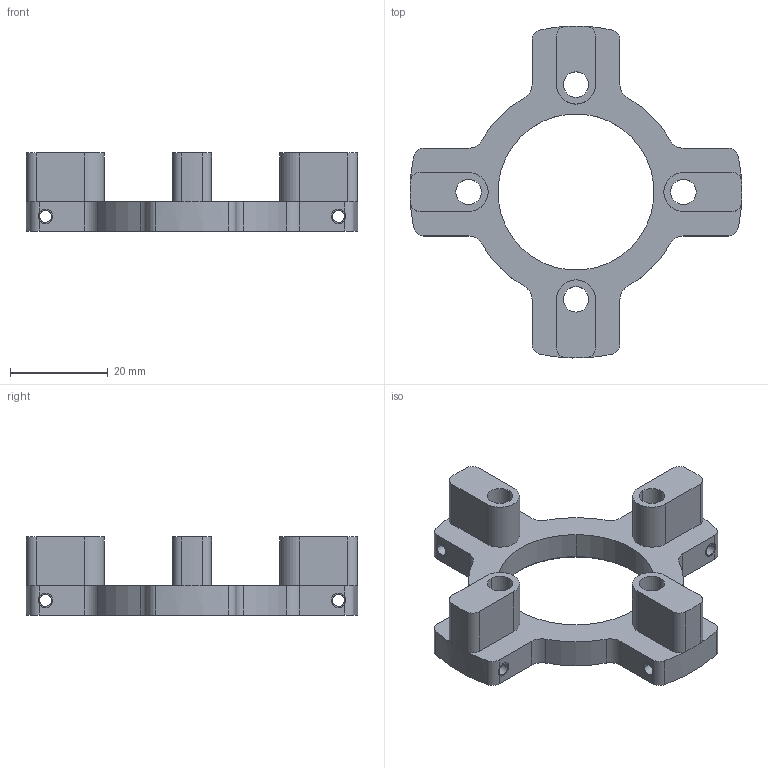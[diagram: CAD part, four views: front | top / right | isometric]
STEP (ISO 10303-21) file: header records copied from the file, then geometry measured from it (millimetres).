
FILE_DESCRIPTION(/* description */ ('VariCAD 2010-3.03 AP-214'),/* implementation_level */ '2;1');
FILE_NAME(/* name */ '0353-19-80',/* time_stamp */ '2011-03-02T22:22:21-07:00',/* author */ (''),/* organization */ (''),/* preprocessor_version */ 'ST-DEVELOPER v12',/* originating_system */ 'VariCAD 2010-3.03; kernel version (20100102)',/* authorisation */ '');
FILE_SCHEMA (('AUTOMOTIVE_DESIGN'));
Length unit declared in the file: millimetre
Products named in the file (1): Part
Bounding box: 67.99 x 67.99 x 16 mm (x, y, z)
Volume: 10519 mm3; surface area: 10151.5 mm2
Topology: 9 solids, 9 shells, 178 faces, 542 edges, 358 vertices
Faces by surface type: cylinder 138, plane 38, cone 2
Entity records: 7031 total; most frequent: CARTESIAN_POINT 2096, ORIENTED_EDGE 1084, DIRECTION 960, EDGE_CURVE 542, AXIS2_PLACEMENT_3D 374, VERTEX_POINT 358, LINE 212, VECTOR 212
